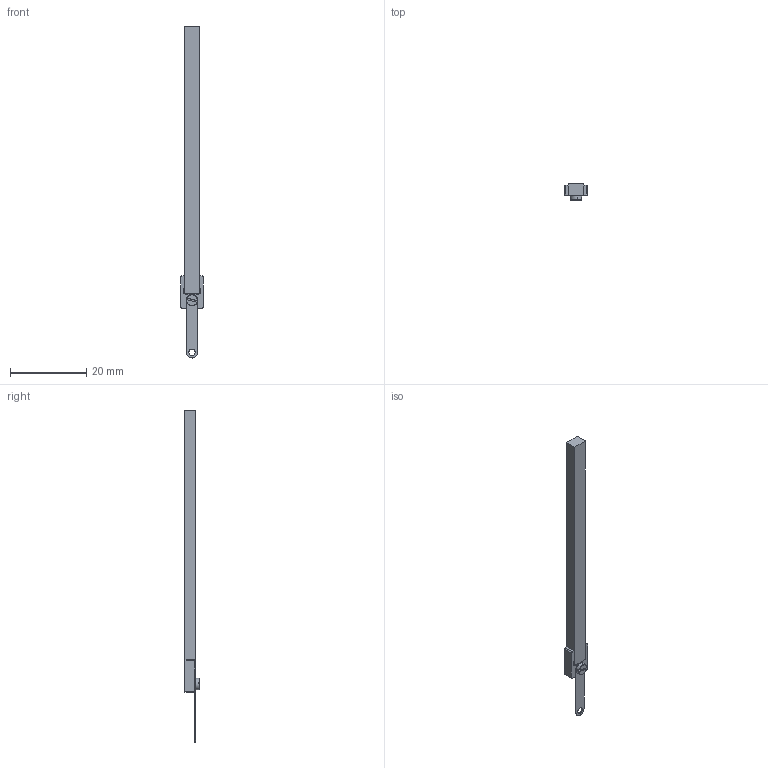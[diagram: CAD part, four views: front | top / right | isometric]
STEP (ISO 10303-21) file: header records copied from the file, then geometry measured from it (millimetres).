
FILE_DESCRIPTION (( 'STEP AP214' ), '1' );
FILE_NAME ('LT2020D_DriveRod_070D1D2-PiezoMotor.STEP', '2017-06-08T12:06:36', ( '' ), ( '' ), 'SwSTEP 2.0', 'SolidWorks 2016', '' );
FILE_SCHEMA (( 'AUTOMOTIVE_DESIGN' ));
Length unit declared in the file: millimetre
Products named in the file (2): LT2020D_DriveRod_070D1D2-PiezoMotor
Bounding box: 6 x 4.1 x 86.95 mm (x, y, z)
Volume: 940.2 mm3; surface area: 1311.2 mm2
Topology: 4 solids, 4 shells, 54 faces, 130 edges, 85 vertices
Faces by surface type: plane 27, cylinder 20, cone 7
Entity records: 1677 total; most frequent: DIRECTION 289, CARTESIAN_POINT 283, ORIENTED_EDGE 260, EDGE_CURVE 130, AXIS2_PLACEMENT_3D 107, VERTEX_POINT 85, LINE 75, VECTOR 75
